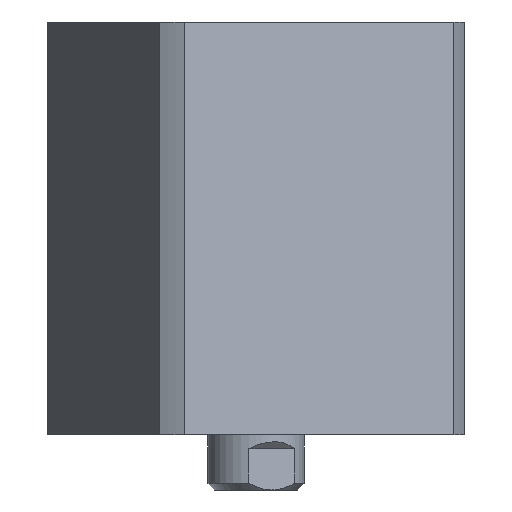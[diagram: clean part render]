
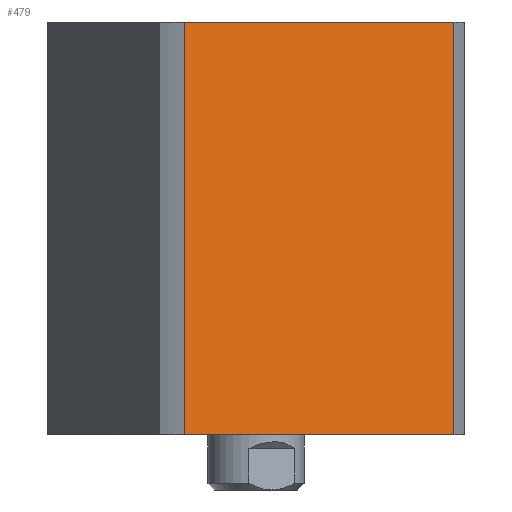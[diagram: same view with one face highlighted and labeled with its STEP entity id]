
A CAD part, left-side view. The second image highlights one B-rep face of the part: STEP entity #479.
In plain terms, the highlighted planar face has unit normal (-0.924, -0.383, 0) as drawn and (1, 0, 0) by its records, which use the part's own axes.
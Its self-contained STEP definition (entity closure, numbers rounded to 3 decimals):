
#194 = LINE ( 'NONE', #5858, #3353 ) ;
#195 = VERTEX_POINT ( 'NONE', #3502 ) ;
#316 = CARTESIAN_POINT ( 'NONE',  ( 24., 21.166, -240. ) ) ;
#479 = ADVANCED_FACE ( 'NONE', ( #6786 ), #1478, .F. ) ;
#862 = DIRECTION ( 'NONE',  ( -1., 0., 0. ) ) ;
#1259 = VECTOR ( 'NONE', #3458, 1000. ) ;
#1444 = CARTESIAN_POINT ( 'NONE',  ( 24., -21.166, 60. ) ) ;
#1478 = PLANE ( 'NONE',  #1687 ) ;
#1687 = AXIS2_PLACEMENT_3D ( 'NONE', #7719, #862, #5257 ) ;
#1707 = CARTESIAN_POINT ( 'NONE',  ( 24., -21.166, 0. ) ) ;
#1738 = VERTEX_POINT ( 'NONE', #2073 ) ;
#2073 = CARTESIAN_POINT ( 'NONE',  ( 24., 21.166, 60. ) ) ;
#2300 = ORIENTED_EDGE ( 'NONE', *, *, #6774, .T. ) ;
#2651 = LINE ( 'NONE', #7005, #5578 ) ;
#2656 = DIRECTION ( 'NONE',  ( 0., 1., 0. ) ) ;
#2887 = EDGE_CURVE ( 'NONE', #7452, #1738, #5812, .T. ) ;
#3353 = VECTOR ( 'NONE', #4004, 1000. ) ;
#3458 = DIRECTION ( 'NONE',  ( 0., 0., -1. ) ) ;
#3502 = CARTESIAN_POINT ( 'NONE',  ( 24., 21.166, 0. ) ) ;
#3759 = DIRECTION ( 'NONE',  ( 0., 1., 0. ) ) ;
#4004 = DIRECTION ( 'NONE',  ( 0., 0., 1. ) ) ;
#4171 = VECTOR ( 'NONE', #3759, 1000. ) ;
#5257 = DIRECTION ( 'NONE',  ( 0., -1., 0. ) ) ;
#5578 = VECTOR ( 'NONE', #2656, 1000. ) ;
#5637 = CARTESIAN_POINT ( 'NONE',  ( 24., 24., 60. ) ) ;
#5701 = ORIENTED_EDGE ( 'NONE', *, *, #7046, .F. ) ;
#5812 = LINE ( 'NONE', #5637, #4171 ) ;
#5858 = CARTESIAN_POINT ( 'NONE',  ( 24., -21.166, -240. ) ) ;
#6443 = LINE ( 'NONE', #316, #1259 ) ;
#6766 = EDGE_LOOP ( 'NONE', ( #7858, #2300, #5701, #7999 ) ) ;
#6774 = EDGE_CURVE ( 'NONE', #7762, #195, #2651, .T. ) ;
#6786 = FACE_OUTER_BOUND ( 'NONE', #6766, .T. ) ;
#6932 = EDGE_CURVE ( 'NONE', #7762, #7452, #194, .T. ) ;
#7005 = CARTESIAN_POINT ( 'NONE',  ( 24., 24., 0. ) ) ;
#7046 = EDGE_CURVE ( 'NONE', #1738, #195, #6443, .T. ) ;
#7452 = VERTEX_POINT ( 'NONE', #1444 ) ;
#7719 = CARTESIAN_POINT ( 'NONE',  ( 24., 24., 60. ) ) ;
#7762 = VERTEX_POINT ( 'NONE', #1707 ) ;
#7858 = ORIENTED_EDGE ( 'NONE', *, *, #6932, .F. ) ;
#7999 = ORIENTED_EDGE ( 'NONE', *, *, #2887, .F. ) ;
